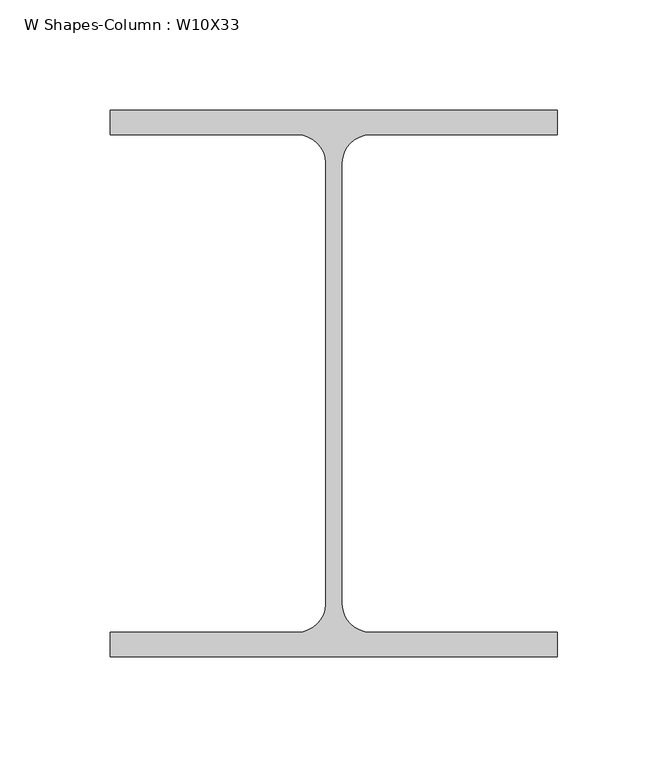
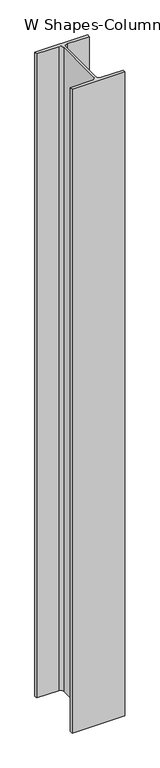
"""IFC4 building model written with IfcOpenShell, lengths in millimetres: column geometry, W Shapes-Column : W10X33."""

import ifcopenshell
import ifcopenshell.guid

model = None  # the IFC model being written
_history = None  # IfcOwnerHistory: only IFC2X3 demands one
_inside = {}  # id of a spatial element -> (the spatial element, [elements in it])
_under = {}  # id of a project, library or spatial element -> (it, [spatial elements below it])
_declared = {}  # id of a project -> (the project, [libraries it declares])
_typed = {}  # id of a type object -> (the type object, [elements of that type])
_made_of = {}  # id of a material, layer set ... -> (it, [elements and type objects made of it])


def new_model(schema):
    """Start an empty IFC model of exactly this schema.

    Asked for "IFC4X3", IfcOpenShell would pick the latest addendum, in which some entities
    have other attributes; the version numbers below select the first issue.
    IFC2X3 requires an IfcOwnerHistory on every rooted entity: one is made here for all.
    """
    global model, _history
    if schema == "IFC4X3":
        model = ifcopenshell.file(schema_version=(4, 3, 0, 0))
    else:
        model = ifcopenshell.file(schema=schema)
    _inside.clear()
    _under.clear()
    _declared.clear()
    _typed.clear()
    _made_of.clear()
    _history = None
    if model.schema == "IFC2X3":
        org = make("IfcOrganization", Name="unknown")
        user = make(
            "IfcPersonAndOrganization",
            ThePerson=make("IfcPerson", FamilyName="unknown"),
            TheOrganization=org,
        )
        app = make(
            "IfcApplication",
            ApplicationDeveloper=org,
            Version="unknown",
            ApplicationFullName="unknown",
            ApplicationIdentifier="unknown",
        )
        _history = make(
            "IfcOwnerHistory",
            OwningUser=user,
            OwningApplication=app,
            ChangeAction="ADDED",
            CreationDate=0,
        )
    return model


def make(cls, **values):
    """One entity of the class cls with the attributes given. An attribute that is None is left unset."""
    return model.create_entity(
        cls, **{name: value for name, value in values.items() if value is not None}
    )


def rooted(cls, **values):
    """An entity with a GlobalId (a new one), such as an element, a storey or a relation."""
    return make(cls, GlobalId=ifcopenshell.guid.new(), OwnerHistory=_history, **values)


def si_unit(unit_type, name, prefix=None):
    """IfcSIUnit, for example si_unit("LENGTHUNIT", "METRE", prefix="MILLI")."""
    return make("IfcSIUnit", UnitType=unit_type, Prefix=prefix, Name=name)


def assignment(units):
    """IfcUnitAssignment: the units of a project."""
    return None if units is None else make("IfcUnitAssignment", Units=units)


def point(xyz):
    """IfcCartesianPoint."""
    return None if xyz is None else make("IfcCartesianPoint", Coordinates=xyz)


def direction(xyz):
    """IfcDirection."""
    return None if xyz is None else make("IfcDirection", DirectionRatios=xyz)


def frame(location, z_axis=None, x_axis=None):
    """IfcAxis2Placement3D, a coordinate frame: its origin and axes. An axis left out is left unset."""
    return make(
        "IfcAxis2Placement3D",
        Location=point(location),
        Axis=direction(z_axis),
        RefDirection=direction(x_axis),
    )


def frame_2d(location, x_axis=None):
    """IfcAxis2Placement2D, a coordinate frame in the plane: its origin and x axis."""
    return make(
        "IfcAxis2Placement2D", Location=point(location), RefDirection=direction(x_axis)
    )


def origin():
    """The frame at (0, 0, 0) with its axes left unset."""
    return frame((0.0, 0.0, 0.0))


def place(relative_to, where):
    """IfcLocalPlacement: puts the frame where relative to a parent placement (None: the world)."""
    return make(
        "IfcLocalPlacement", PlacementRelTo=relative_to, RelativePlacement=where
    )


def context(
    kind, dimensions, precision=None, world=None, true_north=None, identifier=None
):
    """IfcGeometricRepresentationContext, for example the 3D "Model" context."""
    return make(
        "IfcGeometricRepresentationContext",
        ContextIdentifier=identifier,
        ContextType=kind,
        CoordinateSpaceDimension=dimensions,
        Precision=precision,
        WorldCoordinateSystem=world,
        TrueNorth=true_north,
    )


def project(units=None, contexts=None):
    """IfcProject with its units and contexts."""
    return rooted(
        "IfcProject",
        Name="project",
        RepresentationContexts=contexts,
        UnitsInContext=assignment(units),
    )


def spatial(cls, under=None, at=None, **own):
    """A site, building, storey or space (cls), placed at a placement, below another one or the project."""
    s = rooted(cls, ObjectPlacement=at, **own)
    if under is not None:
        _under.setdefault(under.id(), (under, []))[1].append(s)
    return s


def polyline(points):
    """IfcPolyline through the points."""
    return make("IfcPolyline", Points=[point(p) for p in points])


def circle_curve(where, radius):
    """IfcCircle in the frame where."""
    return make("IfcCircle", Position=where, Radius=radius)


def trimmed(basis, trim1, trim2, sense, master):
    """IfcTrimmedCurve: the piece of a basis curve between two trims."""
    return make(
        "IfcTrimmedCurve",
        BasisCurve=basis,
        Trim1=trim1,
        Trim2=trim2,
        SenseAgreement=sense,
        MasterRepresentation=master,
    )


def segment(curve, same_sense, transition):
    """IfcCompositeCurveSegment."""
    return make(
        "IfcCompositeCurveSegment",
        Transition=transition,
        SameSense=same_sense,
        ParentCurve=curve,
    )


def composite_curve(segments, self_intersect=None):
    """IfcCompositeCurve: segments joined end to end."""
    return make("IfcCompositeCurve", Segments=segments, SelfIntersect=self_intersect)


def outline(outer, holes=None, kind="AREA"):
    """IfcArbitraryClosedProfileDef: a profile drawn as a closed curve; with holes, ...WithVoids."""
    if holes is None:
        return make("IfcArbitraryClosedProfileDef", ProfileType=kind, OuterCurve=outer)
    return make(
        "IfcArbitraryProfileDefWithVoids",
        ProfileType=kind,
        OuterCurve=outer,
        InnerCurves=holes,
    )


def extrude(swept, where, along, depth):
    """IfcExtrudedAreaSolid: the profile swept, set in the frame where, extruded along a direction by depth."""
    return make(
        "IfcExtrudedAreaSolid",
        SweptArea=swept,
        Position=where,
        ExtrudedDirection=direction(along),
        Depth=depth,
    )


def shape(context_of_items, identifier, shape_type, items):
    """IfcShapeRepresentation: the items that make up one representation, for example the "Body"."""
    return make(
        "IfcShapeRepresentation",
        ContextOfItems=context_of_items,
        RepresentationIdentifier=identifier,
        RepresentationType=shape_type,
        Items=items,
    )


def source(mapping_origin, context_of_items, identifier, shape_type, items):
    """IfcRepresentationMap: a shape defined once, which mapped items show again and again."""
    return make(
        "IfcRepresentationMap",
        MappingOrigin=mapping_origin,
        MappedRepresentation=shape(context_of_items, identifier, shape_type, items),
    )


def transform(
    local_origin,
    x_axis=None,
    y_axis=None,
    z_axis=None,
    scale=None,
    scale2=None,
    scale3=None,
    uniform=True,
):
    """IfcCartesianTransformationOperator3D, or its non-uniform kind. x_axis, y_axis, z_axis: its Axis1, 2, 3."""
    if uniform:
        return make(
            "IfcCartesianTransformationOperator3D",
            Axis1=direction(x_axis),
            Axis2=direction(y_axis),
            LocalOrigin=point(local_origin),
            Scale=scale,
            Axis3=direction(z_axis),
        )
    return make(
        "IfcCartesianTransformationOperator3DnonUniform",
        Axis1=direction(x_axis),
        Axis2=direction(y_axis),
        LocalOrigin=point(local_origin),
        Scale=scale,
        Axis3=direction(z_axis),
        Scale2=scale2,
        Scale3=scale3,
    )


def mapped(mapping_source, mapping_target):
    """IfcMappedItem: shows the shape of a source again, moved by a transform."""
    return make(
        "IfcMappedItem", MappingSource=mapping_source, MappingTarget=mapping_target
    )


def made_of(thing, what):
    """Note that an element or type object is made of a material, layer set ...; save() writes the relation."""
    if what is not None:
        _made_of.setdefault(what.id(), (what, []))[1].append(thing)
    return thing


def element(
    cls,
    number,
    at=None,
    inside=None,
    cuts=None,
    type_object=None,
    material=None,
    context=None,
    identifier="Body",
    shape_type=None,
    held_by="IfcProductDefinitionShape",
    body=None,
    shapes=None,
    **own,
):
    """One element of the class cls, such as IfcWall. Its Tag is "e" and its number.

    at: its placement. inside: the storey or other place that contains it. cuts: it is an
    opening in that element (IfcRelVoidsElement). A single representation is given by context,
    identifier, shape_type and body (its items); several are given by shapes. held_by: the class
    of the entity that holds the representations. save() writes the other relations.
    """
    e = rooted(cls, Tag="e%d" % number, ObjectPlacement=at, **own)
    if body is not None:
        shapes = [shape(context, identifier, shape_type, body)]
    if shapes is not None:
        e.Representation = make(held_by, Representations=shapes)
    if inside is not None:
        _inside.setdefault(inside.id(), (inside, []))[1].append(e)
    if cuts is not None:
        rooted(
            "IfcRelVoidsElement", RelatingBuildingElement=cuts, RelatedOpeningElement=e
        )
    if type_object is not None:
        _typed.setdefault(type_object.id(), (type_object, []))[1].append(e)
    return made_of(e, material)


def aggregate(whole, parts):
    """IfcRelAggregates: a whole, such as a stair, and the parts it consists of."""
    return rooted("IfcRelAggregates", RelatingObject=whole, RelatedObjects=parts)


def save(model, path):
    """Write the relations noted so far, then the file.

    IfcRelAggregates (storeys below a building ...), IfcRelContainedInSpatialStructure (elements
    in a storey), IfcRelDefinesByType, IfcRelAssociatesMaterial and IfcRelDeclares: one each for
    every whole, place, type object, material and project.
    """
    for whole, parts in _under.values():
        aggregate(whole, parts)
    for where, things in _inside.values():
        rooted(
            "IfcRelContainedInSpatialStructure",
            RelatedElements=things,
            RelatingStructure=where,
        )
    for kind, things in _typed.values():
        rooted("IfcRelDefinesByType", RelatedObjects=things, RelatingType=kind)
    for what, things in _made_of.values():
        rooted("IfcRelAssociatesMaterial", RelatedObjects=things, RelatingMaterial=what)
    for by, libraries in _declared.values():
        rooted("IfcRelDeclares", RelatingContext=by, RelatedDefinitions=libraries)
    model.write(path)


def w_shapes_column_w10x33_47bedb91(model_context):
    return source(origin(), model_context, "Body", "SweptSolid", [
        extrude(outline(composite_curve([segment(polyline([(101.092, 123.571), (101.092, 112.522), (16.383, 112.522)]), True, "CONTINUOUS"), segment(trimmed(circle_curve(frame_2d((16.383, 99.822)), 12.7), [point((16.383, 112.522))], [point((3.683, 99.822))], True, "CARTESIAN"), True, "CONTINUOUS"), segment(polyline([(3.683, 99.822), (3.683, -99.822)]), True, "CONTINUOUS"), segment(trimmed(circle_curve(frame_2d((16.383, -99.822)), 12.7), [point((3.683, -99.822))], [point((16.383, -112.522))], True, "CARTESIAN"), True, "CONTINUOUS"), segment(polyline([(16.383, -112.522), (101.092, -112.522), (101.092, -123.571), (-101.092, -123.571), (-101.092, -112.522), (-16.383, -112.522)]), True, "CONTINUOUS"), segment(trimmed(circle_curve(frame_2d((-16.383, -99.822)), 12.7), [point((-16.383, -112.522))], [point((-3.683, -99.822))], True, "CARTESIAN"), True, "CONTINUOUS"), segment(polyline([(-3.683, -99.822), (-3.683, 99.822)]), True, "CONTINUOUS"), segment(trimmed(circle_curve(frame_2d((-16.383, 99.822)), 12.7), [point((-3.683, 99.822))], [point((-16.383, 112.522))], True, "CARTESIAN"), True, "CONTINUOUS"), segment(polyline([(-16.383, 112.522), (-101.092, 112.522), (-101.092, 123.571), (101.092, 123.571)]), True, "CONTINUOUS")], self_intersect=False)), frame((0.0, 0.0, 13411.2), z_axis=(0.0, 0.0, 1.0), x_axis=(1.0, 0.0, 0.0)), (0.0, 0.0, 1.0), 2613.2637124),
    ])


if __name__ == "__main__":
    model = new_model("IFC4")
    model_context = context("Model", 3, world=origin())
    ifc_project = project(units=[si_unit("LENGTHUNIT", "METRE", prefix="MILLI")], contexts=[model_context])
    site = spatial("IfcSite", under=ifc_project)
    building = spatial("IfcBuilding", under=site)
    placement = place(None, origin())
    w_shapes_column_w10x33_shape = w_shapes_column_w10x33_47bedb91(model_context)
    element("IfcColumn", 1, ObjectType="W Shapes-Column : W10X33", at=placement, inside=building, context=model_context, shape_type="MappedRepresentation", body=[
        mapped(w_shapes_column_w10x33_shape, transform((0.0, 0.0, 0.0), x_axis=(1.0, 0.0, 0.0), y_axis=(0.0, 1.0, 0.0), z_axis=(0.0, 0.0, 1.0))),
    ])
    save(model, "model.ifc")
